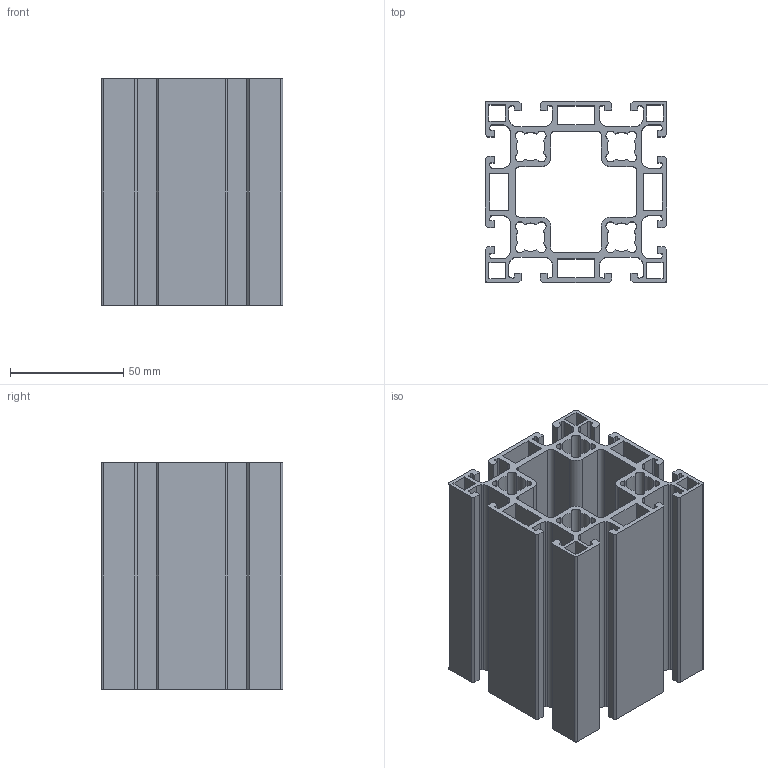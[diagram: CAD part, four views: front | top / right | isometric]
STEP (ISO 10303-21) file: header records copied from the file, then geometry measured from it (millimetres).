
FILE_DESCRIPTION((''),'2;1');
FILE_NAME('C:\Users\de2afr0\Desktop\New folder\MS40+ B 80x80.stp','2014-02-28T13:11:39',('de2afr0'),(''),'Autodesk Inventor 2011','Autodesk Inventor 2011','');
FILE_SCHEMA(('AUTOMOTIVE_DESIGN { 1 0 10303 214 1 1 1 1 }'));
Length unit declared in the file: millimetre
Products named in the file (1): MB01159701
Bounding box: 80 x 80 x 100 mm (x, y, z)
Volume: 170118.1 mm3; surface area: 145456 mm2
Topology: 1 solids, 1 shells, 322 faces, 960 edges, 640 vertices
Faces by surface type: plane 210, cylinder 112
Entity records: 10886 total; most frequent: CARTESIAN_POINT 1923, ORIENTED_EDGE 1920, DIRECTION 1830, EDGE_CURVE 960, VECTOR 736, LINE 736, VERTEX_POINT 640, AXIS2_PLACEMENT_3D 547
